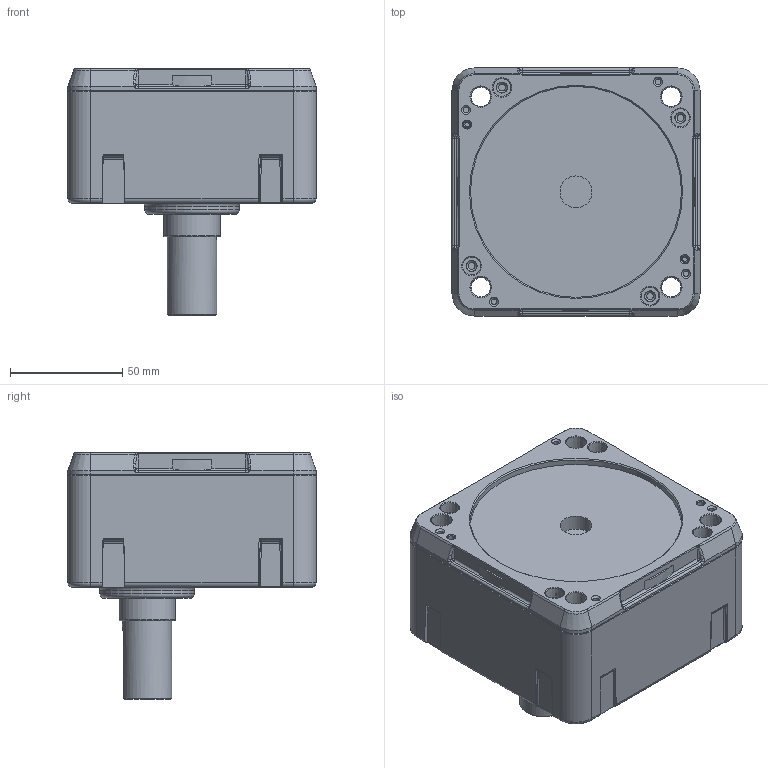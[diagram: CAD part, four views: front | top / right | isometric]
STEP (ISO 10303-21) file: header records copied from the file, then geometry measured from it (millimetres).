
FILE_DESCRIPTION((''),'2;1');
FILE_NAME('C:\Users\LEEKA\Desktop\110각 감속기 3D(STEP)\K10H5-20BU.stp','2017-04-05T14:00:57',('LEEKA'),(''),'Autodesk Inventor 2012','Autodesk Inventor 2012','');
FILE_SCHEMA(('AUTOMOTIVE_DESIGN { 1 0 10303 214 1 1 1 1 }'));
Length unit declared in the file: millimetre
Products named in the file (3): K10H5-20BU; CASE(L) -STEP; COVER-STEP
Assembly tree (2 placements, depth 2):
  K10H5-20BU
    CASE(L) -STEP
    COVER-STEP
Bounding box: 110.5 x 110.5 x 110 mm (x, y, z)
Volume: 695960.1 mm3; surface area: 87075.1 mm2
Topology: 2 solids, 2 shells, 459 faces, 1096 edges, 648 vertices
Faces by surface type: cylinder 158, plane 129, bspline 72, cone 71, torus 21, sphere 8
Full cylindrical faces by diameter (mm): 2.459 x4, 3 x2, 4.917 x1, 14.244 x1, 22 x1, 25 x1, 27 x1, 34 x1, 42 x1, 94 x1, 100 x1
Entity records: 14717 total; most frequent: CARTESIAN_POINT 4494, DIRECTION 2152, ORIENTED_EDGE 1974, EDGE_CURVE 987, AXIS2_PLACEMENT_3D 873, VERTEX_POINT 635, EDGE_LOOP 600, FACE_OUTER_BOUND 459
